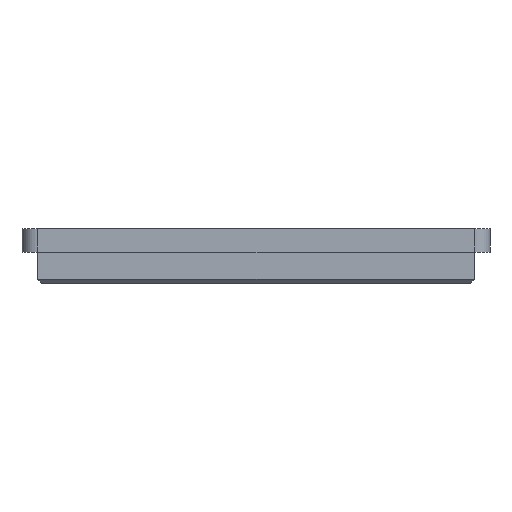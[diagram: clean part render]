
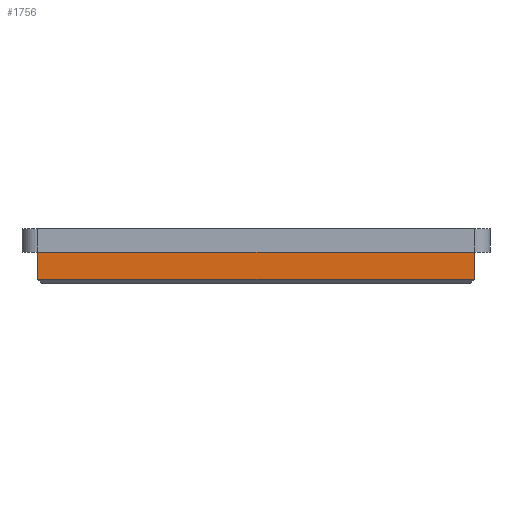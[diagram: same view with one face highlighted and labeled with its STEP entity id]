
A CAD part, left-side view. The second image highlights one B-rep face of the part: STEP entity #1756.
In plain terms, the highlighted planar face has unit normal (-1, 0, 0).
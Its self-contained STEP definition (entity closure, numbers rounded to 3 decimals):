
#743 = PLANE('',#744);
#744 = AXIS2_PLACEMENT_3D('',#745,#746,#747);
#745 = CARTESIAN_POINT('',(-37.75,28.,-3.75));
#746 = DIRECTION('',(0.707,0.,0.707));
#747 = DIRECTION('',(0.,-1.,0.));
#798 = PLANE('',#799);
#799 = AXIS2_PLACEMENT_3D('',#800,#801,#802);
#800 = CARTESIAN_POINT('',(-40.,-30.,0.));
#801 = DIRECTION('',(0.,0.,1.));
#802 = DIRECTION('',(1.,0.,0.));
#1393 = VERTEX_POINT('',#1394);
#1394 = CARTESIAN_POINT('',(-38.,-28.,-3.5));
#1431 = PLANE('',#1432);
#1432 = AXIS2_PLACEMENT_3D('',#1433,#1434,#1435);
#1433 = CARTESIAN_POINT('',(-38.,-28.,0.));
#1434 = DIRECTION('',(0.,-1.,0.));
#1435 = DIRECTION('',(1.,0.,0.));
#1469 = VERTEX_POINT('',#1470);
#1470 = CARTESIAN_POINT('',(-38.,28.,-3.5));
#1491 = EDGE_CURVE('',#1469,#1393,#1492,.T.);
#1492 = SURFACE_CURVE('',#1493,(#1497,#1504),.PCURVE_S1.);
#1493 = LINE('',#1494,#1495);
#1494 = CARTESIAN_POINT('',(-38.,28.,-3.5));
#1495 = VECTOR('',#1496,1.);
#1496 = DIRECTION('',(0.,-1.,0.));
#1497 = PCURVE('',#743,#1498);
#1498 = DEFINITIONAL_REPRESENTATION('',(#1499),#1503);
#1499 = LINE('',#1500,#1501);
#1500 = CARTESIAN_POINT('',(0.,-0.354));
#1501 = VECTOR('',#1502,1.);
#1502 = DIRECTION('',(1.,0.));
#1503 = ( GEOMETRIC_REPRESENTATION_CONTEXT(2) 
PARAMETRIC_REPRESENTATION_CONTEXT() REPRESENTATION_CONTEXT('2D SPACE',''
  ) );
#1504 = PCURVE('',#1505,#1510);
#1505 = PLANE('',#1506);
#1506 = AXIS2_PLACEMENT_3D('',#1507,#1508,#1509);
#1507 = CARTESIAN_POINT('',(-38.,28.,0.));
#1508 = DIRECTION('',(-1.,0.,0.));
#1509 = DIRECTION('',(0.,-1.,0.));
#1510 = DEFINITIONAL_REPRESENTATION('',(#1511),#1515);
#1511 = LINE('',#1512,#1513);
#1512 = CARTESIAN_POINT('',(0.,-3.5));
#1513 = VECTOR('',#1514,1.);
#1514 = DIRECTION('',(1.,0.));
#1515 = ( GEOMETRIC_REPRESENTATION_CONTEXT(2) 
PARAMETRIC_REPRESENTATION_CONTEXT() REPRESENTATION_CONTEXT('2D SPACE',''
  ) );
#1591 = PLANE('',#1592);
#1592 = AXIS2_PLACEMENT_3D('',#1593,#1594,#1595);
#1593 = CARTESIAN_POINT('',(38.,28.,0.));
#1594 = DIRECTION('',(0.,1.,-0.));
#1595 = DIRECTION('',(-1.,0.,0.));
#1619 = VERTEX_POINT('',#1620);
#1620 = CARTESIAN_POINT('',(-38.,-28.,0.));
#1643 = EDGE_CURVE('',#1644,#1619,#1646,.T.);
#1644 = VERTEX_POINT('',#1645);
#1645 = CARTESIAN_POINT('',(-38.,28.,0.));
#1646 = SURFACE_CURVE('',#1647,(#1651,#1658),.PCURVE_S1.);
#1647 = LINE('',#1648,#1649);
#1648 = CARTESIAN_POINT('',(-38.,28.,0.));
#1649 = VECTOR('',#1650,1.);
#1650 = DIRECTION('',(0.,-1.,0.));
#1651 = PCURVE('',#798,#1652);
#1652 = DEFINITIONAL_REPRESENTATION('',(#1653),#1657);
#1653 = LINE('',#1654,#1655);
#1654 = CARTESIAN_POINT('',(2.,58.));
#1655 = VECTOR('',#1656,1.);
#1656 = DIRECTION('',(0.,-1.));
#1657 = ( GEOMETRIC_REPRESENTATION_CONTEXT(2) 
PARAMETRIC_REPRESENTATION_CONTEXT() REPRESENTATION_CONTEXT('2D SPACE',''
  ) );
#1658 = PCURVE('',#1505,#1659);
#1659 = DEFINITIONAL_REPRESENTATION('',(#1660),#1664);
#1660 = LINE('',#1661,#1662);
#1661 = CARTESIAN_POINT('',(0.,0.));
#1662 = VECTOR('',#1663,1.);
#1663 = DIRECTION('',(1.,0.));
#1664 = ( GEOMETRIC_REPRESENTATION_CONTEXT(2) 
PARAMETRIC_REPRESENTATION_CONTEXT() REPRESENTATION_CONTEXT('2D SPACE',''
  ) );
#1713 = EDGE_CURVE('',#1619,#1393,#1714,.T.);
#1714 = SURFACE_CURVE('',#1715,(#1719,#1726),.PCURVE_S1.);
#1715 = LINE('',#1716,#1717);
#1716 = CARTESIAN_POINT('',(-38.,-28.,0.));
#1717 = VECTOR('',#1718,1.);
#1718 = DIRECTION('',(-0.,-0.,-1.));
#1719 = PCURVE('',#1431,#1720);
#1720 = DEFINITIONAL_REPRESENTATION('',(#1721),#1725);
#1721 = LINE('',#1722,#1723);
#1722 = CARTESIAN_POINT('',(0.,0.));
#1723 = VECTOR('',#1724,1.);
#1724 = DIRECTION('',(0.,-1.));
#1725 = ( GEOMETRIC_REPRESENTATION_CONTEXT(2) 
PARAMETRIC_REPRESENTATION_CONTEXT() REPRESENTATION_CONTEXT('2D SPACE',''
  ) );
#1726 = PCURVE('',#1505,#1727);
#1727 = DEFINITIONAL_REPRESENTATION('',(#1728),#1732);
#1728 = LINE('',#1729,#1730);
#1729 = CARTESIAN_POINT('',(56.,0.));
#1730 = VECTOR('',#1731,1.);
#1731 = DIRECTION('',(0.,-1.));
#1732 = ( GEOMETRIC_REPRESENTATION_CONTEXT(2) 
PARAMETRIC_REPRESENTATION_CONTEXT() REPRESENTATION_CONTEXT('2D SPACE',''
  ) );
#1756 = ADVANCED_FACE('',(#1757),#1505,.T.);
#1757 = FACE_BOUND('',#1758,.T.);
#1758 = EDGE_LOOP('',(#1759,#1780,#1781,#1782));
#1759 = ORIENTED_EDGE('',*,*,#1760,.T.);
#1760 = EDGE_CURVE('',#1644,#1469,#1761,.T.);
#1761 = SURFACE_CURVE('',#1762,(#1766,#1773),.PCURVE_S1.);
#1762 = LINE('',#1763,#1764);
#1763 = CARTESIAN_POINT('',(-38.,28.,0.));
#1764 = VECTOR('',#1765,1.);
#1765 = DIRECTION('',(-0.,-0.,-1.));
#1766 = PCURVE('',#1505,#1767);
#1767 = DEFINITIONAL_REPRESENTATION('',(#1768),#1772);
#1768 = LINE('',#1769,#1770);
#1769 = CARTESIAN_POINT('',(0.,0.));
#1770 = VECTOR('',#1771,1.);
#1771 = DIRECTION('',(0.,-1.));
#1772 = ( GEOMETRIC_REPRESENTATION_CONTEXT(2) 
PARAMETRIC_REPRESENTATION_CONTEXT() REPRESENTATION_CONTEXT('2D SPACE',''
  ) );
#1773 = PCURVE('',#1591,#1774);
#1774 = DEFINITIONAL_REPRESENTATION('',(#1775),#1779);
#1775 = LINE('',#1776,#1777);
#1776 = CARTESIAN_POINT('',(76.,0.));
#1777 = VECTOR('',#1778,1.);
#1778 = DIRECTION('',(0.,-1.));
#1779 = ( GEOMETRIC_REPRESENTATION_CONTEXT(2) 
PARAMETRIC_REPRESENTATION_CONTEXT() REPRESENTATION_CONTEXT('2D SPACE',''
  ) );
#1780 = ORIENTED_EDGE('',*,*,#1491,.T.);
#1781 = ORIENTED_EDGE('',*,*,#1713,.F.);
#1782 = ORIENTED_EDGE('',*,*,#1643,.F.);
